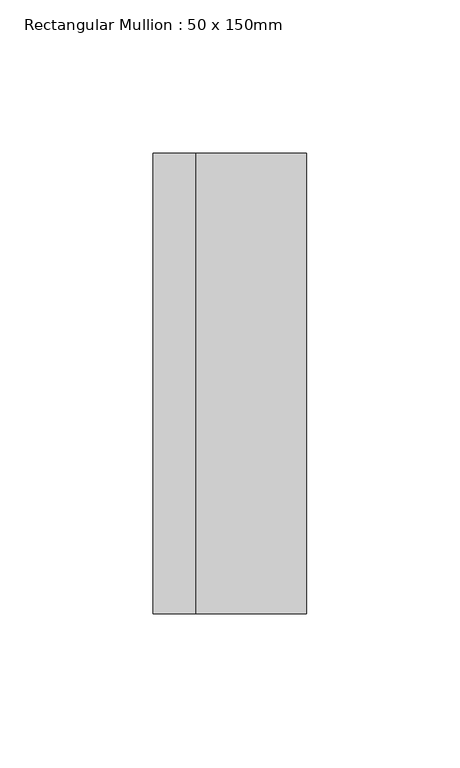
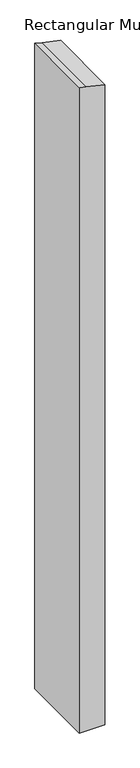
"""IFC4 building model written with IfcOpenShell, lengths in millimetres: member geometry, Rectangular Mullion : 50 x 150mm."""

from ifc_helpers import new_model, si_unit, frame, origin, place, context, project, spatial, polyline, outline, extrude, source, transform, mapped, element, save


def rectangular_mullion_50_x_150mm_70546719(model_context):
    return source(origin(), model_context, "Body", "SweptSolid", [
        extrude(outline(polyline([(-57.0076081, 25.0), (-48.7772414, -10.991178), (-45.6673426, -25.0), (-1376.9424787, -25.0), (-1376.9424787, 25.0), (-57.0076081, 25.0)])), frame((0.0, -75.0, 0.0), z_axis=(0.0, 1.0, 0.0), x_axis=(0.0, 0.0, 1.0)), (0.0, 0.0, 1.0), 150.0),
    ])


if __name__ == "__main__":
    model = new_model("IFC4")
    model_context = context("Model", 3, world=origin())
    ifc_project = project(units=[si_unit("LENGTHUNIT", "METRE", prefix="MILLI")], contexts=[model_context])
    site = spatial("IfcSite", under=ifc_project)
    building = spatial("IfcBuilding", under=site)
    placement = place(None, origin())
    rectangular_mullion_50_x_150mm_shape = rectangular_mullion_50_x_150mm_70546719(model_context)
    element("IfcMember", 1, ObjectType="Rectangular Mullion : 50 x 150mm", at=placement, inside=building, context=model_context, shape_type="MappedRepresentation", body=[
        mapped(rectangular_mullion_50_x_150mm_shape, transform((0.0, 0.0, 0.0), x_axis=(1.0, 0.0, 0.0), y_axis=(0.0, 1.0, 0.0), z_axis=(0.0, 0.0, 1.0))),
    ])
    save(model, "model.ifc")
